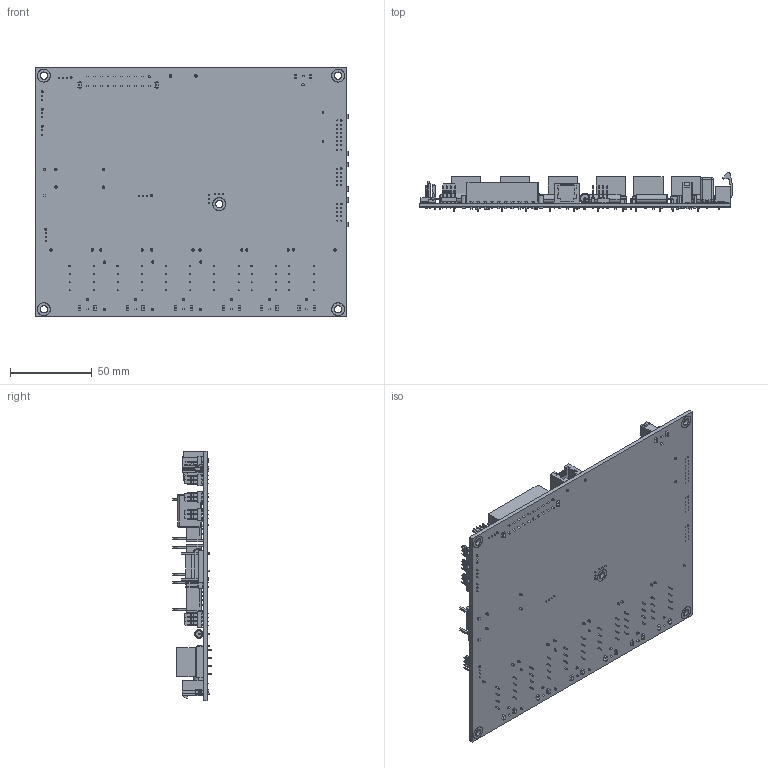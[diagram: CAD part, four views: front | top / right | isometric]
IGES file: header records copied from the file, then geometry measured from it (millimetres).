
Start section: SolidWorks IGES file using analytic representation for surfaces
Global section: file name: Y:\CADdata\solidworks_parts\pcb_assemblies\PCB-11206A_01A.IGS; native system: SolidWorks 2016; preprocessor: SolidWorks 2016; author: rstaley; date: 161118.114001; units: millimetre
Bounding box: 191.31 x 23.8 x 152.4 mm (x, y, z)
Surface area: 105342.5 mm2 (no closed solid volume)
Topology: 0 solids, 0 shells, 3859 faces, 28534 edges, 28482 vertices
Faces by surface type: bspline 3004, revolution 855
